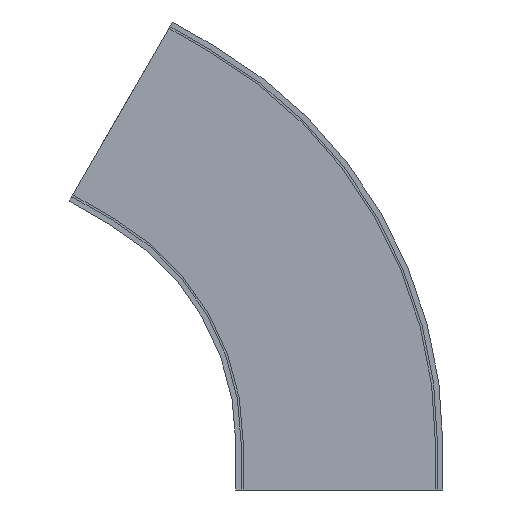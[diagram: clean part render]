
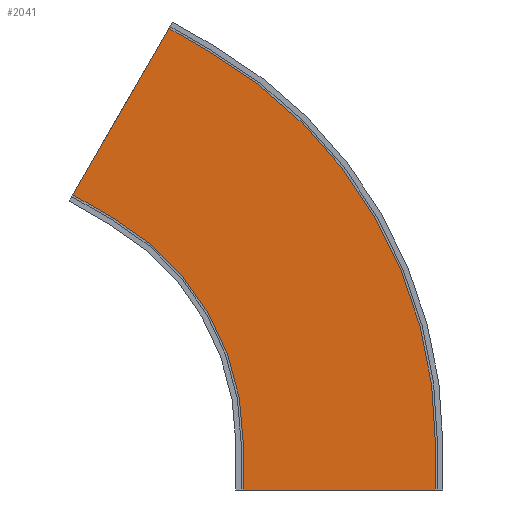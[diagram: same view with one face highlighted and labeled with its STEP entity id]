
A CAD part, front view. The second image highlights one B-rep face of the part: STEP entity #2041.
In plain terms, the highlighted planar face has unit normal (0, -1, 0).
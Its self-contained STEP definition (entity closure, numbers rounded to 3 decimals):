
#27 = CARTESIAN_POINT ( 'NONE',  ( 507.95, -68.25, -52.5 ) ) ;
#51 = CARTESIAN_POINT ( 'NONE',  ( 292.05, -68.25, -52.5 ) ) ;
#98 = AXIS2_PLACEMENT_3D ( 'NONE', #623, #1557, #588 ) ;
#153 = EDGE_CURVE ( 'NONE', #2472, #1178, #396, .T. ) ;
#169 = ORIENTED_EDGE ( 'NONE', *, *, #829, .F. ) ;
#193 = VECTOR ( 'NONE', #2360, 1000. ) ;
#290 = EDGE_CURVE ( 'NONE', #385, #2472, #1241, .T. ) ;
#291 = CARTESIAN_POINT ( 'NONE',  ( 208.509, -68.25, 466.148 ) ) ;
#385 = VERTEX_POINT ( 'NONE', #929 ) ;
#396 = LINE ( 'NONE', #1033, #193 ) ;
#401 = ORIENTED_EDGE ( 'NONE', *, *, #2311, .F. ) ;
#499 = DIRECTION ( 'NONE',  ( -1., 0., 0. ) ) ;
#507 = DIRECTION ( 'NONE',  ( 0.5, 0., 0.866 ) ) ;
#527 = DIRECTION ( 'NONE',  ( 0., 1., 0. ) ) ;
#544 = VECTOR ( 'NONE', #507, 1000. ) ;
#577 = FACE_OUTER_BOUND ( 'NONE', #2128, .T. ) ;
#588 = DIRECTION ( 'NONE',  ( -1., 0., 0. ) ) ;
#592 = VECTOR ( 'NONE', #1428, 1000. ) ;
#605 = ORIENTED_EDGE ( 'NONE', *, *, #960, .T. ) ;
#611 = DIRECTION ( 'NONE',  ( 0., 0., 1. ) ) ;
#613 = EDGE_CURVE ( 'NONE', #2256, #653, #1019, .T. ) ;
#623 = CARTESIAN_POINT ( 'NONE',  ( 0., -68.25, 0. ) ) ;
#653 = VERTEX_POINT ( 'NONE', #889 ) ;
#744 = CARTESIAN_POINT ( 'NONE',  ( 292.05, -68.25, 0. ) ) ;
#808 = LINE ( 'NONE', #51, #1737 ) ;
#829 = EDGE_CURVE ( 'NONE', #2256, #994, #2067, .T. ) ;
#889 = CARTESIAN_POINT ( 'NONE',  ( 507.95, -68.25, 0. ) ) ;
#895 = CARTESIAN_POINT ( 'NONE',  ( 146.025, -68.25, 252.923 ) ) ;
#899 = DIRECTION ( 'NONE',  ( -1., 0., 0. ) ) ;
#929 = CARTESIAN_POINT ( 'NONE',  ( 100.559, -68.25, 279.173 ) ) ;
#960 = EDGE_CURVE ( 'NONE', #385, #1685, #2462, .T. ) ;
#994 = VERTEX_POINT ( 'NONE', #2203 ) ;
#1019 = LINE ( 'NONE', #1855, #2344 ) ;
#1024 = ORIENTED_EDGE ( 'NONE', *, *, #2282, .F. ) ;
#1033 = CARTESIAN_POINT ( 'NONE',  ( 208.509, -68.25, 466.148 ) ) ;
#1159 = ORIENTED_EDGE ( 'NONE', *, *, #613, .T. ) ;
#1178 = VERTEX_POINT ( 'NONE', #1778 ) ;
#1241 = LINE ( 'NONE', #1485, #544 ) ;
#1266 = DIRECTION ( 'NONE',  ( 0., 1., 0. ) ) ;
#1268 = CARTESIAN_POINT ( 'NONE',  ( 100.559, -68.25, 279.173 ) ) ;
#1277 = CARTESIAN_POINT ( 'NONE',  ( 0., -68.25, 0. ) ) ;
#1386 = CARTESIAN_POINT ( 'NONE',  ( 0., -68.25, -52.5 ) ) ;
#1428 = DIRECTION ( 'NONE',  ( 0.866, 0., -0.5 ) ) ;
#1485 = CARTESIAN_POINT ( 'NONE',  ( -45.466, -68.25, 26.25 ) ) ;
#1502 = CARTESIAN_POINT ( 'NONE',  ( 146.025, -68.25, 252.923 ) ) ;
#1557 = DIRECTION ( 'NONE',  ( 0., 1., 0. ) ) ;
#1575 = ORIENTED_EDGE ( 'NONE', *, *, #153, .F. ) ;
#1632 = CIRCLE ( 'NONE', #1666, 292.05 ) ;
#1666 = AXIS2_PLACEMENT_3D ( 'NONE', #1277, #1266, #499 ) ;
#1674 = DIRECTION ( 'NONE',  ( 0., 0., 1. ) ) ;
#1685 = VERTEX_POINT ( 'NONE', #895 ) ;
#1706 = AXIS2_PLACEMENT_3D ( 'NONE', #1502, #527, #899 ) ;
#1737 = VECTOR ( 'NONE', #611, 1000. ) ;
#1748 = EDGE_CURVE ( 'NONE', #1685, #2066, #1632, .T. ) ;
#1778 = CARTESIAN_POINT ( 'NONE',  ( 253.975, -68.25, 439.898 ) ) ;
#1832 = CIRCLE ( 'NONE', #98, 507.95 ) ;
#1855 = CARTESIAN_POINT ( 'NONE',  ( 507.95, -68.25, -52.5 ) ) ;
#1863 = PLANE ( 'NONE',  #1706 ) ;
#1951 = ORIENTED_EDGE ( 'NONE', *, *, #1748, .T. ) ;
#2008 = ORIENTED_EDGE ( 'NONE', *, *, #290, .F. ) ;
#2041 = ADVANCED_FACE ( 'NONE', ( #577 ), #1863, .F. ) ;
#2066 = VERTEX_POINT ( 'NONE', #744 ) ;
#2067 = LINE ( 'NONE', #1386, #2365 ) ;
#2128 = EDGE_LOOP ( 'NONE', ( #1951, #1024, #169, #1159, #401, #1575, #2008, #605 ) ) ;
#2203 = CARTESIAN_POINT ( 'NONE',  ( 292.05, -68.25, -52.5 ) ) ;
#2256 = VERTEX_POINT ( 'NONE', #27 ) ;
#2282 = EDGE_CURVE ( 'NONE', #994, #2066, #808, .T. ) ;
#2311 = EDGE_CURVE ( 'NONE', #1178, #653, #1832, .T. ) ;
#2332 = DIRECTION ( 'NONE',  ( -1., 0., 0. ) ) ;
#2344 = VECTOR ( 'NONE', #1674, 1000. ) ;
#2360 = DIRECTION ( 'NONE',  ( 0.866, 0., -0.5 ) ) ;
#2365 = VECTOR ( 'NONE', #2332, 1000. ) ;
#2462 = LINE ( 'NONE', #1268, #592 ) ;
#2472 = VERTEX_POINT ( 'NONE', #291 ) ;
